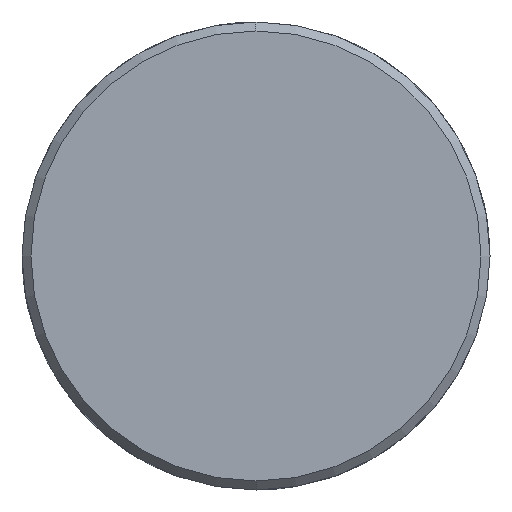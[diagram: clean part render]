
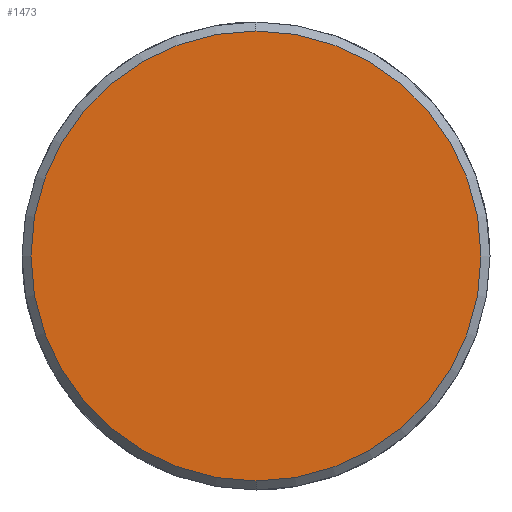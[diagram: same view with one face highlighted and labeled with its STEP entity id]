
A CAD part, left-side view. The second image highlights one B-rep face of the part: STEP entity #1473.
In plain terms, the highlighted planar face has unit normal (-1, 0, 0).
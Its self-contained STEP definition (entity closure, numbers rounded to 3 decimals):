
#1405=CARTESIAN_POINT('Vertex',(-8.,0.,-25.)) ;
#1408=CARTESIAN_POINT('Axis2P3D Location',(-8.,0.,0.)) ;
#1412=CARTESIAN_POINT('Vertex',(-8.,25.,0.)) ;
#1415=CARTESIAN_POINT('Axis2P3D Location',(-8.,0.,0.)) ;
#1419=CARTESIAN_POINT('Vertex',(-8.,0.,25.)) ;
#1441=CARTESIAN_POINT('Axis2P3D Location',(-8.,0.,0.)) ;
#1445=CARTESIAN_POINT('Vertex',(-8.,-25.,0.)) ;
#1448=CARTESIAN_POINT('Axis2P3D Location',(-8.,0.,0.)) ;
#1462=CARTESIAN_POINT('Axis2P3D Location',(-8.,0.,0.)) ;
#1409=DIRECTION('Axis2P3D Direction',(1.,0.,-0.)) ;
#1416=DIRECTION('Axis2P3D Direction',(1.,0.,-0.)) ;
#1442=DIRECTION('Axis2P3D Direction',(1.,0.,-0.)) ;
#1449=DIRECTION('Axis2P3D Direction',(1.,0.,-0.)) ;
#1463=DIRECTION('Axis2P3D Direction',(1.,0.,-0.)) ;
#1464=DIRECTION('Axis2P3D XDirection',(-0.,0.,-1.)) ;
#1410=AXIS2_PLACEMENT_3D('Circle Axis2P3D',#1408,#1409,$) ;
#1417=AXIS2_PLACEMENT_3D('Circle Axis2P3D',#1415,#1416,$) ;
#1443=AXIS2_PLACEMENT_3D('Circle Axis2P3D',#1441,#1442,$) ;
#1450=AXIS2_PLACEMENT_3D('Circle Axis2P3D',#1448,#1449,$) ;
#1465=AXIS2_PLACEMENT_3D('Plane Axis2P3D',#1462,#1463,#1464) ;
#1468=ORIENTED_EDGE('',*,*,#1414,.F.) ;
#1469=ORIENTED_EDGE('',*,*,#1452,.F.) ;
#1470=ORIENTED_EDGE('',*,*,#1447,.F.) ;
#1471=ORIENTED_EDGE('',*,*,#1421,.F.) ;
#1473=ADVANCED_FACE('351-40X66X220',(#1472),#1466,.F.) ;
#1411=CIRCLE('generated circle',#1410,25.) ;
#1418=CIRCLE('generated circle',#1417,25.) ;
#1444=CIRCLE('generated circle',#1443,25.) ;
#1451=CIRCLE('generated circle',#1450,25.) ;
#1414=EDGE_CURVE('',#1406,#1413,#1411,.T.) ;
#1421=EDGE_CURVE('',#1413,#1420,#1418,.T.) ;
#1447=EDGE_CURVE('',#1420,#1446,#1444,.T.) ;
#1452=EDGE_CURVE('',#1446,#1406,#1451,.T.) ;
#1467=EDGE_LOOP('',(#1468,#1469,#1470,#1471)) ;
#1472=FACE_OUTER_BOUND('',#1467,.T.) ;
#1466=PLANE('Plane',#1465) ;
#1406=VERTEX_POINT('',#1405) ;
#1413=VERTEX_POINT('',#1412) ;
#1420=VERTEX_POINT('',#1419) ;
#1446=VERTEX_POINT('',#1445) ;
